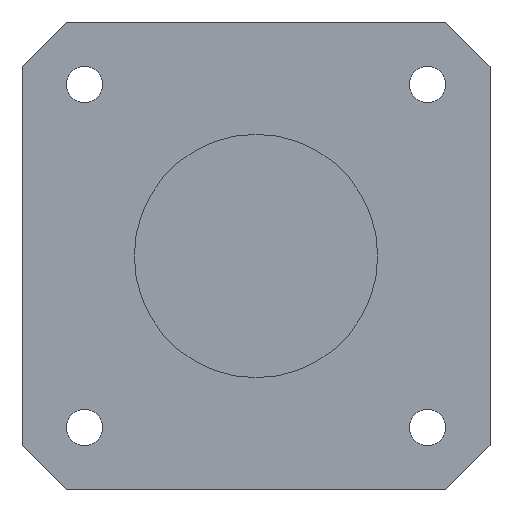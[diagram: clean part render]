
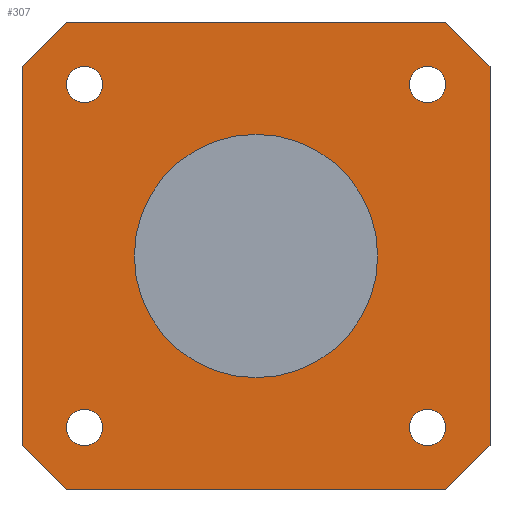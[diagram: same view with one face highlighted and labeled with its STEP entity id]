
A CAD part, front view. The second image highlights one B-rep face of the part: STEP entity #307.
In plain terms, the highlighted planar face has unit normal (0, -1, 0).
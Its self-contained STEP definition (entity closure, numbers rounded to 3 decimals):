
#24=FACE_BOUND('',#75,.T.);
#25=FACE_BOUND('',#76,.T.);
#26=FACE_BOUND('',#77,.T.);
#27=FACE_BOUND('',#78,.T.);
#28=FACE_BOUND('',#79,.T.);
#34=CIRCLE('',#335,11.);
#35=CIRCLE('',#338,1.65);
#36=CIRCLE('',#340,1.65);
#37=CIRCLE('',#342,1.65);
#38=CIRCLE('',#344,1.65);
#54=FACE_OUTER_BOUND('',#74,.T.);
#74=EDGE_LOOP('',(#268,#269,#270,#271,#272,#273,#274,#275));
#75=EDGE_LOOP('',(#276));
#76=EDGE_LOOP('',(#277));
#77=EDGE_LOOP('',(#278));
#78=EDGE_LOOP('',(#279));
#79=EDGE_LOOP('',(#280));
#82=LINE('',#439,#111);
#91=LINE('',#465,#120);
#93=LINE('',#469,#122);
#96=LINE('',#475,#125);
#99=LINE('',#480,#128);
#101=LINE('',#484,#130);
#107=LINE('',#509,#136);
#108=LINE('',#511,#137);
#111=VECTOR('',#354,10.);
#120=VECTOR('',#375,10.);
#122=VECTOR('',#379,10.);
#125=VECTOR('',#384,10.);
#128=VECTOR('',#389,10.);
#130=VECTOR('',#393,10.);
#136=VECTOR('',#425,10.);
#137=VECTOR('',#428,10.);
#140=VERTEX_POINT('',#436);
#141=VERTEX_POINT('',#438);
#152=VERTEX_POINT('',#464);
#153=VERTEX_POINT('',#468);
#154=VERTEX_POINT('',#472);
#155=VERTEX_POINT('',#474);
#156=VERTEX_POINT('',#478);
#157=VERTEX_POINT('',#482);
#159=VERTEX_POINT('',#488);
#160=VERTEX_POINT('',#493);
#161=VERTEX_POINT('',#497);
#162=VERTEX_POINT('',#501);
#163=VERTEX_POINT('',#505);
#166=EDGE_CURVE('',#140,#141,#82,.T.);
#179=EDGE_CURVE('',#141,#152,#91,.T.);
#181=EDGE_CURVE('',#152,#153,#93,.T.);
#184=EDGE_CURVE('',#154,#155,#96,.T.);
#187=EDGE_CURVE('',#156,#154,#99,.T.);
#189=EDGE_CURVE('',#157,#156,#101,.T.);
#192=EDGE_CURVE('',#159,#159,#34,.T.);
#194=EDGE_CURVE('',#160,#160,#35,.T.);
#196=EDGE_CURVE('',#161,#161,#36,.T.);
#198=EDGE_CURVE('',#162,#162,#37,.T.);
#200=EDGE_CURVE('',#163,#163,#38,.T.);
#201=EDGE_CURVE('',#153,#157,#107,.T.);
#202=EDGE_CURVE('',#155,#140,#108,.T.);
#268=ORIENTED_EDGE('',*,*,#166,.F.);
#269=ORIENTED_EDGE('',*,*,#202,.F.);
#270=ORIENTED_EDGE('',*,*,#184,.F.);
#271=ORIENTED_EDGE('',*,*,#187,.F.);
#272=ORIENTED_EDGE('',*,*,#189,.F.);
#273=ORIENTED_EDGE('',*,*,#201,.F.);
#274=ORIENTED_EDGE('',*,*,#181,.F.);
#275=ORIENTED_EDGE('',*,*,#179,.F.);
#276=ORIENTED_EDGE('',*,*,#192,.T.);
#277=ORIENTED_EDGE('',*,*,#200,.F.);
#278=ORIENTED_EDGE('',*,*,#198,.F.);
#279=ORIENTED_EDGE('',*,*,#196,.F.);
#280=ORIENTED_EDGE('',*,*,#194,.F.);
#291=PLANE('',#347);
#307=ADVANCED_FACE('',(#54,#24,#25,#26,#27,#28),#291,.F.);
#335=AXIS2_PLACEMENT_3D('',#490,#399,#400);
#338=AXIS2_PLACEMENT_3D('',#495,#406,#407);
#340=AXIS2_PLACEMENT_3D('',#499,#411,#412);
#342=AXIS2_PLACEMENT_3D('',#503,#416,#417);
#344=AXIS2_PLACEMENT_3D('',#507,#421,#422);
#347=AXIS2_PLACEMENT_3D('',#512,#429,#430);
#354=DIRECTION('',(-0.707,0.,-0.707));
#375=DIRECTION('',(-1.,0.,0.));
#379=DIRECTION('',(-0.707,0.,0.707));
#384=DIRECTION('',(0.707,0.,-0.707));
#389=DIRECTION('',(1.,0.,0.));
#393=DIRECTION('',(0.707,0.,0.707));
#399=DIRECTION('center_axis',(0.,1.,0.));
#400=DIRECTION('ref_axis',(1.,0.,0.));
#406=DIRECTION('center_axis',(0.,-1.,0.));
#407=DIRECTION('ref_axis',(-1.,0.,0.));
#411=DIRECTION('center_axis',(0.,-1.,0.));
#412=DIRECTION('ref_axis',(-1.,0.,0.));
#416=DIRECTION('center_axis',(0.,-1.,0.));
#417=DIRECTION('ref_axis',(-1.,0.,0.));
#421=DIRECTION('center_axis',(0.,-1.,0.));
#422=DIRECTION('ref_axis',(-1.,0.,0.));
#425=DIRECTION('',(0.,0.,1.));
#428=DIRECTION('',(0.,0.,-1.));
#429=DIRECTION('center_axis',(0.,1.,0.));
#430=DIRECTION('ref_axis',(-1.,0.,0.));
#436=CARTESIAN_POINT('',(11.065,-331.9,57.131));
#438=CARTESIAN_POINT('',(7.065,-331.9,53.131));
#439=CARTESIAN_POINT('',(9.065,-331.9,55.131));
#464=CARTESIAN_POINT('',(-27.235,-331.9,53.131));
#465=CARTESIAN_POINT('',(11.065,-331.9,53.131));
#468=CARTESIAN_POINT('',(-31.235,-331.9,57.131));
#469=CARTESIAN_POINT('',(-29.235,-331.9,55.131));
#472=CARTESIAN_POINT('',(7.065,-331.9,95.431));
#474=CARTESIAN_POINT('',(11.065,-331.9,91.431));
#475=CARTESIAN_POINT('',(9.065,-331.9,93.431));
#478=CARTESIAN_POINT('',(-27.235,-331.9,95.431));
#480=CARTESIAN_POINT('',(-31.235,-331.9,95.431));
#482=CARTESIAN_POINT('',(-31.235,-331.9,91.431));
#484=CARTESIAN_POINT('',(-29.235,-331.9,93.431));
#488=CARTESIAN_POINT('',(-21.085,-331.9,74.281));
#490=CARTESIAN_POINT('Origin',(-10.085,-331.9,74.281));
#493=CARTESIAN_POINT('',(7.065,-331.9,89.781));
#495=CARTESIAN_POINT('Origin',(5.415,-331.9,89.781));
#497=CARTESIAN_POINT('',(-23.935,-331.9,89.781));
#499=CARTESIAN_POINT('Origin',(-25.585,-331.9,89.781));
#501=CARTESIAN_POINT('',(-23.935,-331.9,58.781));
#503=CARTESIAN_POINT('Origin',(-25.585,-331.9,58.781));
#505=CARTESIAN_POINT('',(7.065,-331.9,58.781));
#507=CARTESIAN_POINT('Origin',(5.415,-331.9,58.781));
#509=CARTESIAN_POINT('',(-31.235,-331.9,53.131));
#511=CARTESIAN_POINT('',(11.065,-331.9,95.431));
#512=CARTESIAN_POINT('Origin',(-10.085,-331.9,74.281));
